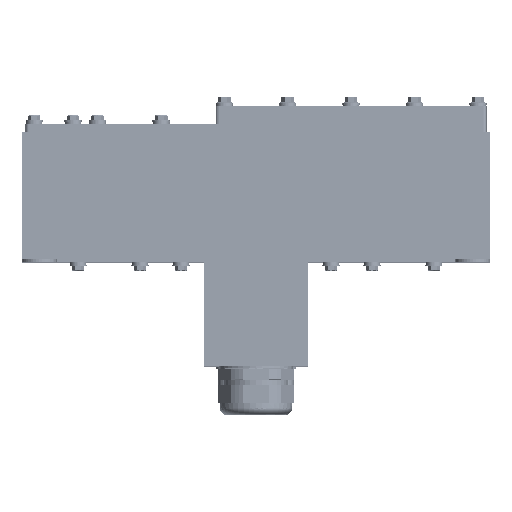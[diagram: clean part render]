
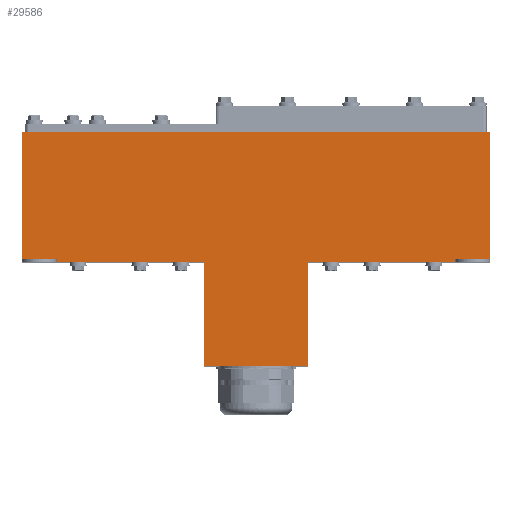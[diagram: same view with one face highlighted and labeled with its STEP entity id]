
A CAD part, top view. The second image highlights one B-rep face of the part: STEP entity #29586.
In plain terms, the highlighted planar face has unit normal (0, 0, 1).
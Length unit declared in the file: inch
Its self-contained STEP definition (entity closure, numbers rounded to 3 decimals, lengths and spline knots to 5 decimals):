
#2243 = CARTESIAN_POINT ( 'NONE',  ( 1.5, -3., 2.375 ) ) ;
#2618 = CARTESIAN_POINT ( 'NONE',  ( -1.5, 0., 2.375 ) ) ;
#3844 = ORIENTED_EDGE ( 'NONE', *, *, #126734, .F. ) ;
#5427 = ORIENTED_EDGE ( 'NONE', *, *, #37149, .F. ) ;
#7431 = VERTEX_POINT ( 'NONE', #113482 ) ;
#10308 = VECTOR ( 'NONE', #103705, 39.37008 ) ;
#10594 = CARTESIAN_POINT ( 'NONE',  ( -6.75, 3.75, 2.375 ) ) ;
#11821 = AXIS2_PLACEMENT_3D ( 'NONE', #156504, #141428, #174675 ) ;
#12731 = FACE_OUTER_BOUND ( 'NONE', #34946, .T. ) ;
#20283 = ORIENTED_EDGE ( 'NONE', *, *, #126376, .F. ) ;
#20934 = DIRECTION ( 'NONE',  ( 0., -1., 0. ) ) ;
#21530 = VERTEX_POINT ( 'NONE', #209211 ) ;
#29043 = DIRECTION ( 'NONE',  ( 1., 0., 0. ) ) ;
#29194 = CARTESIAN_POINT ( 'NONE',  ( 6.75, 0.105, 2.375 ) ) ;
#29586 = ADVANCED_FACE ( 'NONE', ( #12731 ), #42791, .F. ) ;
#32760 = VECTOR ( 'NONE', #29043, 39.37008 ) ;
#34946 = EDGE_LOOP ( 'NONE', ( #51538, #180624, #95971, #100980, #5427, #39155, #195661, #20283, #111738, #44480, #3844, #117770 ) ) ;
#36184 = LINE ( 'NONE', #104748, #95303 ) ;
#36591 = DIRECTION ( 'NONE',  ( 0., -1., 0. ) ) ;
#37149 = EDGE_CURVE ( 'NONE', #57923, #21530, #195243, .T. ) ;
#39155 = ORIENTED_EDGE ( 'NONE', *, *, #130326, .T. ) ;
#41982 = VECTOR ( 'NONE', #50288, 39.37008 ) ;
#42791 = PLANE ( 'NONE',  #11821 ) ;
#44480 = ORIENTED_EDGE ( 'NONE', *, *, #185687, .F. ) ;
#45256 = LINE ( 'NONE', #57154, #94151 ) ;
#46627 = VERTEX_POINT ( 'NONE', #29194 ) ;
#47913 = CARTESIAN_POINT ( 'NONE',  ( 1.5, 0., 2.375 ) ) ;
#50288 = DIRECTION ( 'NONE',  ( 1., 0., 0. ) ) ;
#51538 = ORIENTED_EDGE ( 'NONE', *, *, #137399, .F. ) ;
#57092 = CARTESIAN_POINT ( 'NONE',  ( 6.75, 3.75, 2.375 ) ) ;
#57154 = CARTESIAN_POINT ( 'NONE',  ( 0., 0.105, 2.375 ) ) ;
#57923 = VERTEX_POINT ( 'NONE', #74753 ) ;
#60444 = CARTESIAN_POINT ( 'NONE',  ( -1.5, -3., 2.375 ) ) ;
#63461 = EDGE_CURVE ( 'NONE', #21530, #121913, #207307, .T. ) ;
#63536 = VERTEX_POINT ( 'NONE', #79673 ) ;
#63648 = DIRECTION ( 'NONE',  ( 0., 1., 0. ) ) ;
#64357 = CARTESIAN_POINT ( 'NONE',  ( -6.75, 0.105, 2.375 ) ) ;
#74058 = CARTESIAN_POINT ( 'NONE',  ( 5.75, 0.105, 2.375 ) ) ;
#74753 = CARTESIAN_POINT ( 'NONE',  ( 1.5, -3., 2.375 ) ) ;
#79673 = CARTESIAN_POINT ( 'NONE',  ( 5.75, 0., 2.375 ) ) ;
#82434 = CARTESIAN_POINT ( 'NONE',  ( -5.75, 0.105, 2.375 ) ) ;
#83508 = DIRECTION ( 'NONE',  ( 0., -1., 0. ) ) ;
#84812 = EDGE_CURVE ( 'NONE', #136828, #117739, #183972, .T. ) ;
#85277 = CARTESIAN_POINT ( 'NONE',  ( 5.75, 0.105, 2.375 ) ) ;
#90789 = CARTESIAN_POINT ( 'NONE',  ( 0., 0.105, 2.375 ) ) ;
#92046 = LINE ( 'NONE', #157471, #175963 ) ;
#94151 = VECTOR ( 'NONE', #142875, 39.37008 ) ;
#95303 = VECTOR ( 'NONE', #101607, 39.37008 ) ;
#95971 = ORIENTED_EDGE ( 'NONE', *, *, #199201, .T. ) ;
#96060 = VERTEX_POINT ( 'NONE', #85277 ) ;
#99064 = VECTOR ( 'NONE', #20934, 39.37008 ) ;
#100762 = VECTOR ( 'NONE', #125832, 39.37008 ) ;
#100980 = ORIENTED_EDGE ( 'NONE', *, *, #63461, .F. ) ;
#101607 = DIRECTION ( 'NONE',  ( 0., -1., 0. ) ) ;
#103705 = DIRECTION ( 'NONE',  ( -1., 0., 0. ) ) ;
#103915 = DIRECTION ( 'NONE',  ( 1., 0., 0. ) ) ;
#104299 = VECTOR ( 'NONE', #63648, 39.37008 ) ;
#104748 = CARTESIAN_POINT ( 'NONE',  ( 6.75, 3.75, 2.375 ) ) ;
#105649 = VERTEX_POINT ( 'NONE', #109275 ) ;
#109275 = CARTESIAN_POINT ( 'NONE',  ( -5.75, 0.105, 2.375 ) ) ;
#111575 = CARTESIAN_POINT ( 'NONE',  ( 6.75, 0., 2.375 ) ) ;
#111738 = ORIENTED_EDGE ( 'NONE', *, *, #149509, .F. ) ;
#113482 = CARTESIAN_POINT ( 'NONE',  ( -5.75, 0., 2.375 ) ) ;
#116752 = CARTESIAN_POINT ( 'NONE',  ( 6.75, 3.75, 2.375 ) ) ;
#117739 = VERTEX_POINT ( 'NONE', #64357 ) ;
#117770 = ORIENTED_EDGE ( 'NONE', *, *, #84812, .T. ) ;
#121913 = VERTEX_POINT ( 'NONE', #2618 ) ;
#125832 = DIRECTION ( 'NONE',  ( 0., 1., 0. ) ) ;
#126376 = EDGE_CURVE ( 'NONE', #96060, #63536, #154496, .T. ) ;
#126734 = EDGE_CURVE ( 'NONE', #136828, #210675, #198240, .T. ) ;
#130326 = EDGE_CURVE ( 'NONE', #57923, #178456, #195469, .T. ) ;
#135327 = EDGE_CURVE ( 'NONE', #105649, #7431, #149987, .T. ) ;
#136828 = VERTEX_POINT ( 'NONE', #10594 ) ;
#137399 = EDGE_CURVE ( 'NONE', #105649, #117739, #156220, .T. ) ;
#141428 = DIRECTION ( 'NONE',  ( 0., 0., -1. ) ) ;
#142875 = DIRECTION ( 'NONE',  ( -1., 0., 0. ) ) ;
#149509 = EDGE_CURVE ( 'NONE', #46627, #96060, #45256, .T. ) ;
#149987 = LINE ( 'NONE', #82434, #181760 ) ;
#154496 = LINE ( 'NONE', #74058, #182374 ) ;
#156220 = LINE ( 'NONE', #90789, #10308 ) ;
#156504 = CARTESIAN_POINT ( 'NONE',  ( 6.75, 3.75, 2.375 ) ) ;
#157471 = CARTESIAN_POINT ( 'NONE',  ( 6.75, 0., 2.375 ) ) ;
#161348 = EDGE_CURVE ( 'NONE', #178456, #63536, #175970, .T. ) ;
#163117 = DIRECTION ( 'NONE',  ( -1., 0., 0. ) ) ;
#174675 = DIRECTION ( 'NONE',  ( -1., 0., 0. ) ) ;
#175963 = VECTOR ( 'NONE', #103915, 39.37008 ) ;
#175970 = LINE ( 'NONE', #111575, #32760 ) ;
#178456 = VERTEX_POINT ( 'NONE', #47913 ) ;
#180624 = ORIENTED_EDGE ( 'NONE', *, *, #135327, .T. ) ;
#181760 = VECTOR ( 'NONE', #83508, 39.37008 ) ;
#182374 = VECTOR ( 'NONE', #36591, 39.37008 ) ;
#183972 = LINE ( 'NONE', #186053, #99064 ) ;
#185687 = EDGE_CURVE ( 'NONE', #210675, #46627, #36184, .T. ) ;
#186053 = CARTESIAN_POINT ( 'NONE',  ( -6.75, 3.75, 2.375 ) ) ;
#195243 = LINE ( 'NONE', #2243, #195846 ) ;
#195469 = LINE ( 'NONE', #210492, #104299 ) ;
#195661 = ORIENTED_EDGE ( 'NONE', *, *, #161348, .T. ) ;
#195846 = VECTOR ( 'NONE', #163117, 39.37008 ) ;
#198240 = LINE ( 'NONE', #116752, #41982 ) ;
#199201 = EDGE_CURVE ( 'NONE', #7431, #121913, #92046, .T. ) ;
#207307 = LINE ( 'NONE', #60444, #100762 ) ;
#209211 = CARTESIAN_POINT ( 'NONE',  ( -1.5, -3., 2.375 ) ) ;
#210492 = CARTESIAN_POINT ( 'NONE',  ( 1.5, -3., 2.375 ) ) ;
#210675 = VERTEX_POINT ( 'NONE', #57092 ) ;
